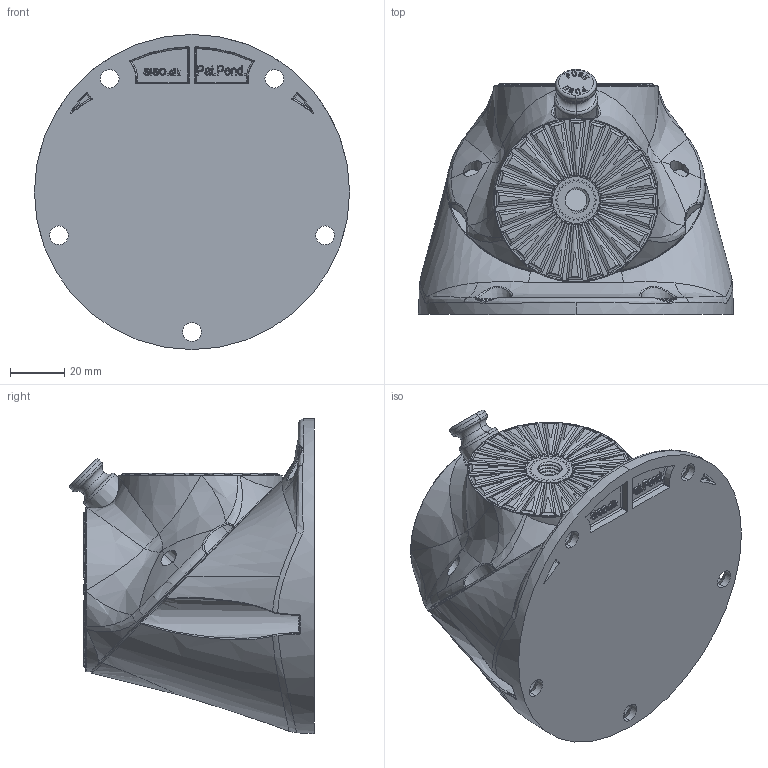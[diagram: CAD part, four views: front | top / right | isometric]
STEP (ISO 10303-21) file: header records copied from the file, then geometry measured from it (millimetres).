
FILE_DESCRIPTION (( 'STEP AP203' ), '1' );
FILE_NAME ('SISO Curley.STEP', '2019-11-26T07:02:29', ( '' ), ( '' ), 'SwSTEP 2.0', 'SolidWorks 2019', '' );
FILE_SCHEMA (( 'CONFIG_CONTROL_DESIGN' ));
Length unit declared in the file: millimetre
Products named in the file (1): SISO Curley
Bounding box: 116 x 90.07 x 116 mm (x, y, z)
Surface area: 56360.4 mm2 (no closed solid volume)
Topology: 0 solids, 10 shells, 1068 faces, 3501 edges, 2412 vertices
Faces by surface type: bspline 407, plane 287, cylinder 259, cone 56, torus 55, sphere 4
Entity records: 72195 total; most frequent: CARTESIAN_POINT 47239, ORIENTED_EDGE 5988, EDGE_CURVE 3483, DIRECTION 3301, VERTEX_POINT 2412, B_SPLINE_CURVE_WITH_KNOTS 1669, EDGE_LOOP 1165, LINE 1139
